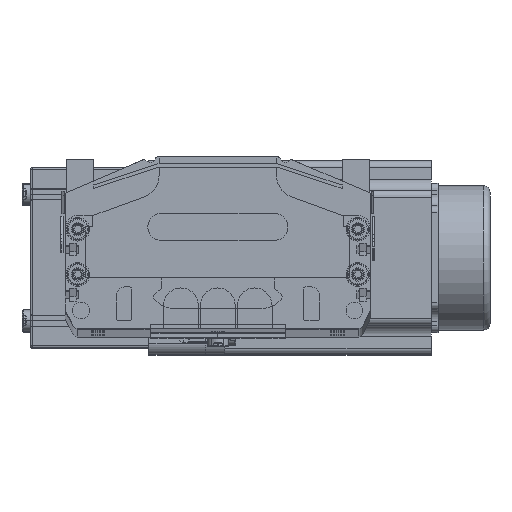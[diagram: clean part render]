
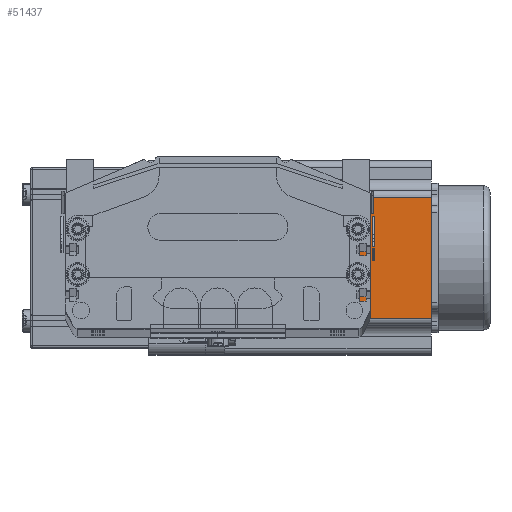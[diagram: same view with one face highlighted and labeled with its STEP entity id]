
A CAD part, top view. The second image highlights one B-rep face of the part: STEP entity #51437.
In plain terms, the highlighted planar face has unit normal (0, 0, 1) as drawn and (-1, 0, 0) by its records, which use the part's own axes.
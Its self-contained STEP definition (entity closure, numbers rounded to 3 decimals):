
#33370 = CARTESIAN_POINT ( 'NONE',  ( 0., 16.16, 0. ) ) ;
#33410 = CARTESIAN_POINT ( 'NONE',  ( 0., 69.74, 91.5 ) ) ;
#33667 = CARTESIAN_POINT ( 'NONE',  ( 0., 69.74, 0. ) ) ;
#33670 = CARTESIAN_POINT ( 'NONE',  ( 0., 0., 91.5 ) ) ;
#33671 = LINE ( 'NONE', #33670, #33814 ) ;
#33776 = DIRECTION ( 'NONE',  ( 0., 0., -1. ) ) ;
#33778 = VECTOR ( 'NONE', #33776, 1000. ) ;
#33779 = CARTESIAN_POINT ( 'NONE',  ( 0., 69.74, 91.5 ) ) ;
#33780 = LINE ( 'NONE', #33779, #33778 ) ;
#33801 = DIRECTION ( 'NONE',  ( 0., -1., 0. ) ) ;
#33802 = VECTOR ( 'NONE', #33801, 1000. ) ;
#33804 = CARTESIAN_POINT ( 'NONE',  ( 0., 0., 0. ) ) ;
#33805 = LINE ( 'NONE', #33804, #33802 ) ;
#33813 = DIRECTION ( 'NONE',  ( 0., -1., 0. ) ) ;
#33814 = VECTOR ( 'NONE', #33813, 1000. ) ;
#33869 = CARTESIAN_POINT ( 'NONE',  ( 0., 16.16, 91.5 ) ) ;
#33966 = AXIS2_PLACEMENT_3D ( 'NONE', #34114, #33969, #34239 ) ;
#33969 = DIRECTION ( 'NONE',  ( 1., 0., 0. ) ) ;
#33984 = LINE ( 'NONE', #33869, #34098 ) ;
#34006 = CARTESIAN_POINT ( 'NONE',  ( 0., 16.16, 91.5 ) ) ;
#34090 = PLANE ( 'NONE',  #33966 ) ;
#34096 = FACE_OUTER_BOUND ( 'NONE', #51055, .T. ) ;
#34097 = DIRECTION ( 'NONE',  ( 0., 0., 1. ) ) ;
#34098 = VECTOR ( 'NONE', #34097, 1000. ) ;
#34114 = CARTESIAN_POINT ( 'NONE',  ( 0., 0., 91.5 ) ) ;
#34239 = DIRECTION ( 'NONE',  ( 0., 0., -1. ) ) ;
#51055 = EDGE_LOOP ( 'NONE', ( #51111, #51378, #51396, #51317 ) ) ;
#51111 = ORIENTED_EDGE ( 'NONE', *, *, #51357, .T. ) ;
#51125 = EDGE_CURVE ( 'NONE', #51319, #51361, #33780, .T. ) ;
#51317 = ORIENTED_EDGE ( 'NONE', *, *, #51125, .T. ) ;
#51319 = VERTEX_POINT ( 'NONE', #33410 ) ;
#51322 = VERTEX_POINT ( 'NONE', #33370 ) ;
#51348 = EDGE_CURVE ( 'NONE', #51319, #51508, #33671, .T. ) ;
#51357 = EDGE_CURVE ( 'NONE', #51361, #51322, #33805, .T. ) ;
#51361 = VERTEX_POINT ( 'NONE', #33667 ) ;
#51378 = ORIENTED_EDGE ( 'NONE', *, *, #51425, .T. ) ;
#51396 = ORIENTED_EDGE ( 'NONE', *, *, #51348, .F. ) ;
#51425 = EDGE_CURVE ( 'NONE', #51322, #51508, #33984, .T. ) ;
#51437 = ADVANCED_FACE ( 'NONE', ( #34096 ), #34090, .F. ) ;
#51508 = VERTEX_POINT ( 'NONE', #34006 ) ;
